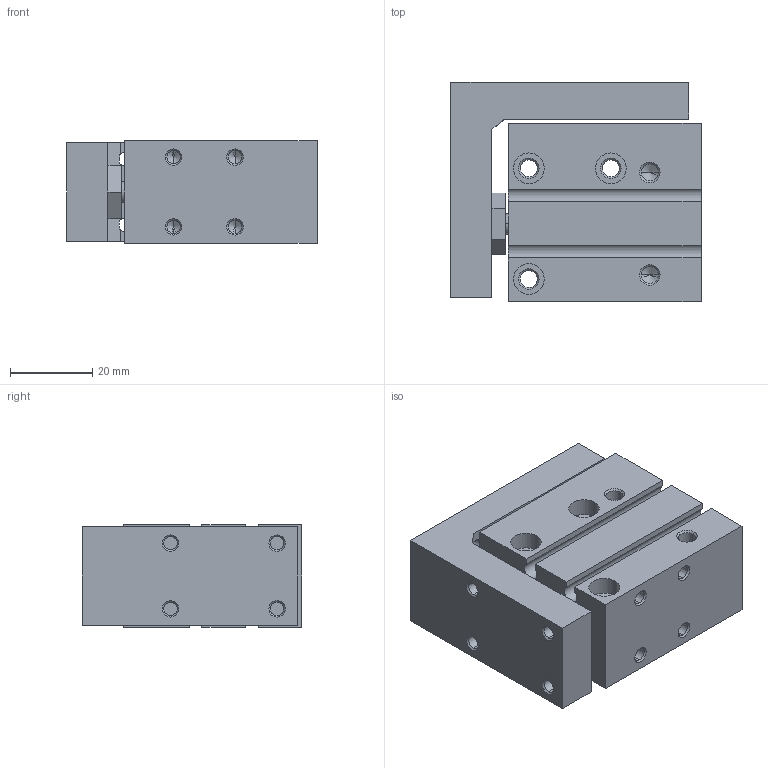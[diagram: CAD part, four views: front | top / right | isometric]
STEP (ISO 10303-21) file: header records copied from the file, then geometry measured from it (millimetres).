
FILE_DESCRIPTION (( 'STEP AP203' ), '1' );
FILE_NAME ('CXH16-5.STEP', '2020-04-16T18:09:37', ( '' ), ( '' ), 'SwSTEP 2.0', 'SolidWorks 2019', '' );
FILE_SCHEMA (( 'CONFIG_CONTROL_DESIGN' ));
Length unit declared in the file: millimetre
Products named in the file (1): CXH16-5
Bounding box: 61 x 53.5 x 25 mm (x, y, z)
Volume: 67196.1 mm3; surface area: 23014.2 mm2
Topology: 2 solids, 2 shells, 208 faces, 495 edges, 286 vertices
Faces by surface type: cone 88, cylinder 76, plane 44
Entity records: 5928 total; most frequent: DIRECTION 1093, CARTESIAN_POINT 1004, ORIENTED_EDGE 934, EDGE_CURVE 467, AXIS2_PLACEMENT_3D 421, VERTEX_POINT 286, EDGE_LOOP 253, VECTOR 251
